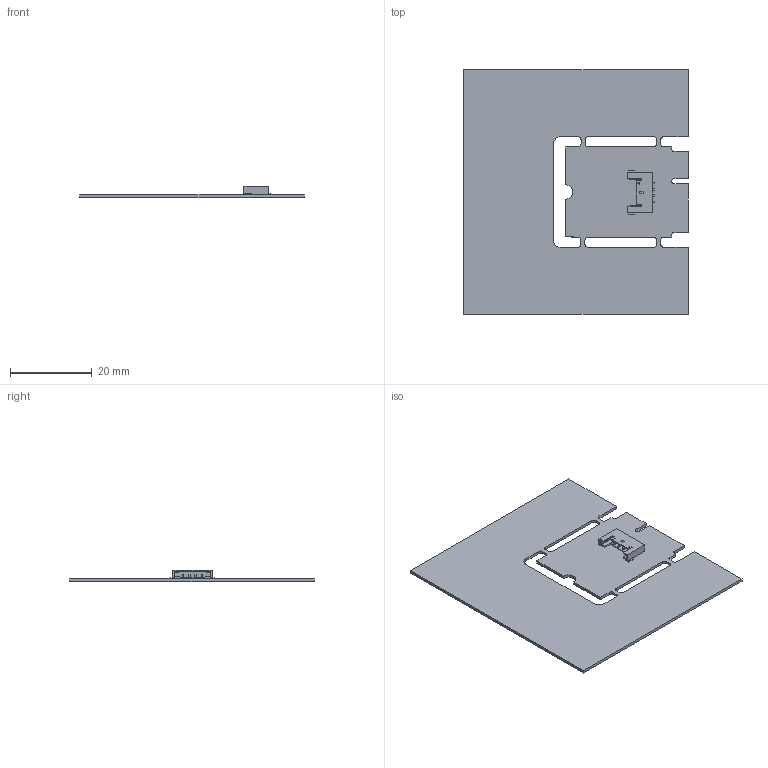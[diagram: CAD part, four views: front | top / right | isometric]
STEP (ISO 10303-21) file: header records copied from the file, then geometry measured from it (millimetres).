
FILE_DESCRIPTION(('KiCad electronic assembly'),'2;1');
FILE_NAME('TVS-usb-m2-key-e-V1.step','2026-11-21T19:34:30',('Pcbnew'),( 'Kicad'),'Open CASCADE STEP processor 7.9','KiCad to STEP converter' ,'Unknown');
FILE_SCHEMA(('AUTOMOTIVE_DESIGN { 1 0 10303 214 1 1 1 1 }'));
Length unit declared in the file: millimetre
Products named in the file (4): TVS-usb-m2-key-e-V1 1; Molex-pico-lock-5040500491; 5040500491wbm000_01; TVS-usb-m2-key-e-V1_PCB
Assembly tree (3 placements, depth 3):
  TVS-usb-m2-key-e-V1 1
    Molex-pico-lock-5040500491
      5040500491wbm000_01
    TVS-usb-m2-key-e-V1_PCB
Bounding box: 54.91 x 59.85 x 2.79 mm (x, y, z)
Volume: 2223.5 mm3; surface area: 6659.4 mm2
Topology: 2 solids, 2 shells, 224 faces, 637 edges, 420 vertices
Faces by surface type: plane 186, cylinder 38
Entity records: 7281 total; most frequent: CARTESIAN_POINT 1285, ORIENTED_EDGE 1274, DIRECTION 1169, EDGE_CURVE 637, LINE 561, VECTOR 561, VERTEX_POINT 420, AXIS2_PLACEMENT_3D 304
